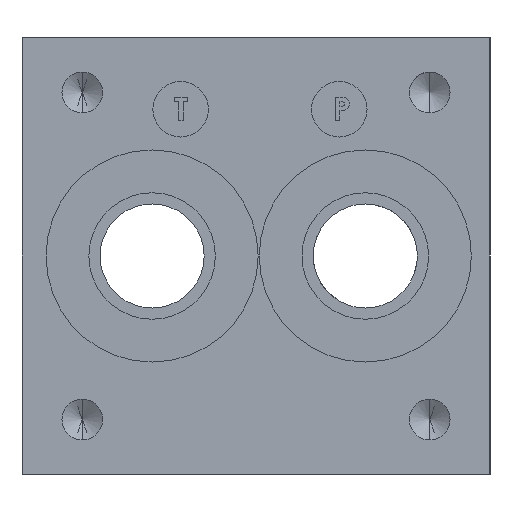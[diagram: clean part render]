
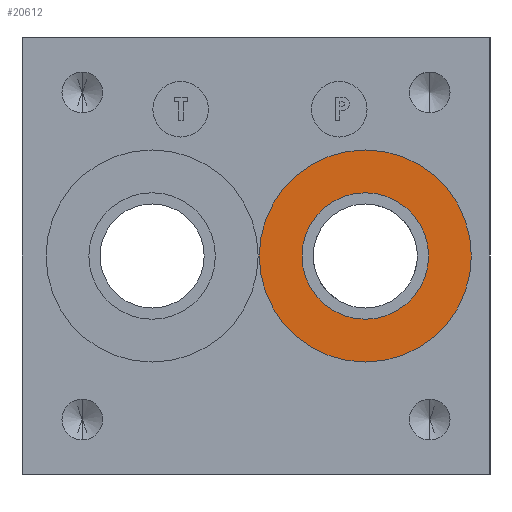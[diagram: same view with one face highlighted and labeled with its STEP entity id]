
A CAD part, left-side view. The second image highlights one B-rep face of the part: STEP entity #20612.
In plain terms, the highlighted planar face has unit normal (-1, 0, 0).
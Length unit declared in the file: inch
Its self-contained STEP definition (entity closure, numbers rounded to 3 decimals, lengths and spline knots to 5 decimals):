
#118 = CARTESIAN_POINT ( 'NONE',  ( 0.031, 0.786, 2.0434 ) ) ;
#142 = CARTESIAN_POINT ( 'NONE',  ( 0.031, 0.786, 1.77385 ) ) ;
#261 = CIRCLE ( 'NONE', #24474, 0.6684 ) ;
#580 = EDGE_CURVE ( 'NONE', #8275, #13762, #18068, .T. ) ;
#1436 = CIRCLE ( 'NONE', #22753, 0.6684 ) ;
#1616 = ORIENTED_EDGE ( 'NONE', *, *, #9753, .F. ) ;
#2821 = AXIS2_PLACEMENT_3D ( 'NONE', #13245, #13231, #13225 ) ;
#3434 = AXIS2_PLACEMENT_3D ( 'NONE', #18011, #6693, #19909 ) ;
#3654 = CARTESIAN_POINT ( 'NONE',  ( 0.031, 0.786, 1.375 ) ) ;
#4347 = ORIENTED_EDGE ( 'NONE', *, *, #9955, .T. ) ;
#5599 = DIRECTION ( 'NONE',  ( 0., 0., 1. ) ) ;
#6693 = DIRECTION ( 'NONE',  ( -1., 0., 0. ) ) ;
#8275 = VERTEX_POINT ( 'NONE', #142 ) ;
#9250 = EDGE_LOOP ( 'NONE', ( #19149, #4347 ) ) ;
#9295 = AXIS2_PLACEMENT_3D ( 'NONE', #21575, #23391, #12172 ) ;
#9753 = EDGE_CURVE ( 'NONE', #13762, #8275, #24486, .T. ) ;
#9955 = EDGE_CURVE ( 'NONE', #20259, #16693, #261, .T. ) ;
#10582 = CARTESIAN_POINT ( 'NONE',  ( 0.031, 0.786, 0.7066 ) ) ;
#11047 = EDGE_CURVE ( 'NONE', #16693, #20259, #1436, .T. ) ;
#11315 = DIRECTION ( 'NONE',  ( -1., 0., 0. ) ) ;
#12172 = DIRECTION ( 'NONE',  ( 0., 0., -1. ) ) ;
#13225 = DIRECTION ( 'NONE',  ( 0., 0., 1. ) ) ;
#13231 = DIRECTION ( 'NONE',  ( -1., 0., 0. ) ) ;
#13245 = CARTESIAN_POINT ( 'NONE',  ( 0.031, 0.786, 1.375 ) ) ;
#13762 = VERTEX_POINT ( 'NONE', #19887 ) ;
#13898 = PLANE ( 'NONE',  #9295 ) ;
#14700 = FACE_OUTER_BOUND ( 'NONE', #9250, .T. ) ;
#16693 = VERTEX_POINT ( 'NONE', #118 ) ;
#16928 = DIRECTION ( 'NONE',  ( -1., 0., 0. ) ) ;
#18011 = CARTESIAN_POINT ( 'NONE',  ( 0.031, 0.786, 1.375 ) ) ;
#18068 = CIRCLE ( 'NONE', #2821, 0.39885 ) ;
#19149 = ORIENTED_EDGE ( 'NONE', *, *, #11047, .T. ) ;
#19722 = FACE_BOUND ( 'NONE', #24169, .T. ) ;
#19887 = CARTESIAN_POINT ( 'NONE',  ( 0.031, 0.786, 0.97615 ) ) ;
#19909 = DIRECTION ( 'NONE',  ( 0., 0., 1. ) ) ;
#20259 = VERTEX_POINT ( 'NONE', #10582 ) ;
#20612 = ADVANCED_FACE ( 'NONE', ( #19722, #14700 ), #13898, .F. ) ;
#21575 = CARTESIAN_POINT ( 'NONE',  ( 0.031, 0.786, 1.375 ) ) ;
#22576 = CARTESIAN_POINT ( 'NONE',  ( 0.031, 0.786, 1.375 ) ) ;
#22753 = AXIS2_PLACEMENT_3D ( 'NONE', #22576, #11315, #24376 ) ;
#23391 = DIRECTION ( 'NONE',  ( 1., 0., 0. ) ) ;
#23753 = ORIENTED_EDGE ( 'NONE', *, *, #580, .F. ) ;
#24169 = EDGE_LOOP ( 'NONE', ( #23753, #1616 ) ) ;
#24376 = DIRECTION ( 'NONE',  ( 0., 0., 1. ) ) ;
#24474 = AXIS2_PLACEMENT_3D ( 'NONE', #3654, #16928, #5599 ) ;
#24486 = CIRCLE ( 'NONE', #3434, 0.39885 ) ;
